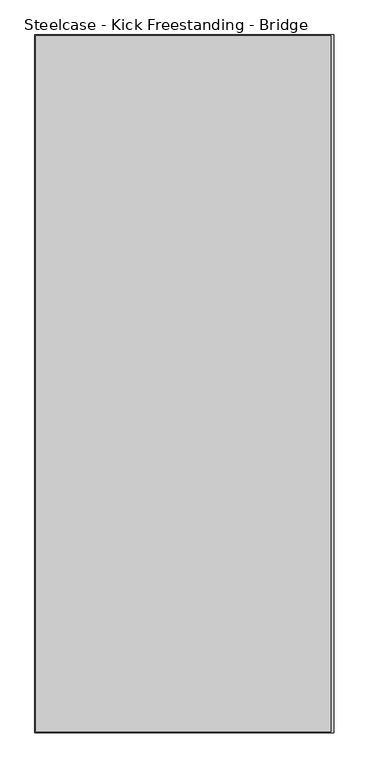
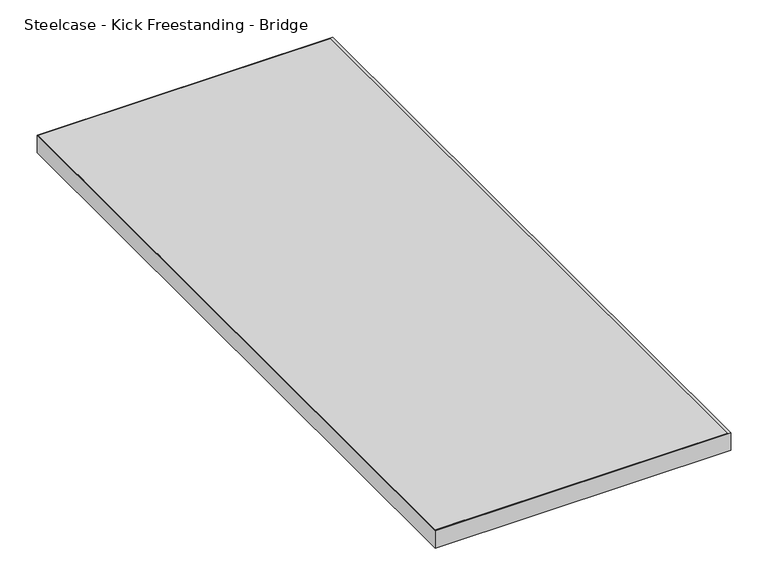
"""IFC4 building model written with IfcOpenShell, lengths in millimetres: furniture geometry, Steelcase - Kick Freestanding - Bridge : 18D x 42W."""

from ifc_helpers import new_model, si_unit, frame, origin, place, context, project, spatial, polyline, outline, extrude, source, transform, mapped, element, save


def steelcase_kick_freestanding_bridge_cf26e12e(model_context):
    return source(origin(), model_context, "Body", "SweptSolid", [
        extrude(outline(polyline([(2616.8176592, -548.0845152), (2616.8176592, -1612.3445152), (2164.8500425, -1612.3445152), (2164.8500425, -548.0845152), (2616.8176592, -548.0845152)])), frame((0.0, 0.0, 682.244), z_axis=(0.0, 0.0, 1.0), x_axis=(1.0, 0.0, 0.0)), (0.0, 0.0, 1.0), 28.956),
        extrude(outline(polyline([(2621.0594425, -546.8145152), (2621.0594425, -1613.6145152), (2163.8594425, -1613.6145152), (2163.8594425, -546.8145152), (2621.0594425, -546.8145152)]), holes=[polyline([(2616.8176592, -548.0845152), (2164.8500425, -548.0845152), (2164.8500425, -1612.3445152), (2616.8176592, -1612.3445152), (2616.8176592, -548.0845152)])]), frame((0.0, 0.0, 682.244), z_axis=(0.0, 0.0, 1.0), x_axis=(1.0, 0.0, 0.0)), (0.0, 0.0, 1.0), 28.956),
    ])


if __name__ == "__main__":
    model = new_model("IFC4")
    model_context = context("Model", 3, world=origin())
    ifc_project = project(units=[si_unit("LENGTHUNIT", "METRE", prefix="MILLI")], contexts=[model_context])
    site = spatial("IfcSite", under=ifc_project)
    building = spatial("IfcBuilding", under=site)
    placement = place(None, origin())
    steelcase_kick_freestanding_bridge_shape = steelcase_kick_freestanding_bridge_cf26e12e(model_context)
    element("IfcFurniture", 1, ObjectType="Steelcase - Kick Freestanding - Bridge : 18D x 42W", at=placement, inside=building, context=model_context, shape_type="MappedRepresentation", body=[
        mapped(steelcase_kick_freestanding_bridge_shape, transform((0.0, 0.0, 0.0), x_axis=(1.0, 0.0, 0.0), y_axis=(0.0, 1.0, 0.0), z_axis=(0.0, 0.0, 1.0))),
    ])
    save(model, "model.ifc")
